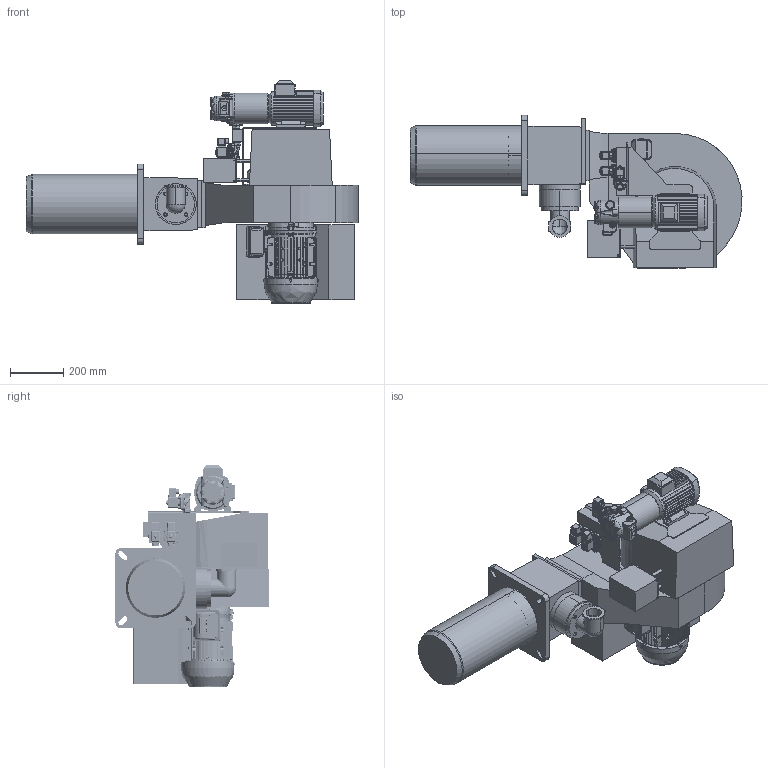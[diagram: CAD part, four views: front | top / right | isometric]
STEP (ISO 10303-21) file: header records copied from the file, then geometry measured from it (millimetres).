
FILE_DESCRIPTION (( 'STEP AP203' ), '1' );
FILE_NAME ('MDB-99-01-01.STEP', '2026-09-21T04:37:08', ( '' ), ( '' ), 'SwSTEP 2.0', 'SolidWorks 2020', '' );
FILE_SCHEMA (( 'CONFIG_CONTROL_DESIGN' ));
Length unit declared in the file: millimetre
Products named in the file (1): MDB-99-01-01
Bounding box: 1242.53 x 573 x 833 mm (x, y, z)
Volume: 121155427.6 mm3; surface area: 4235048.3 mm2
Topology: 65 solids, 85 shells, 6763 faces, 17040 edges, 10647 vertices
Faces by surface type: plane 3281, cylinder 1575, bspline 1039, cone 782, torus 60, sphere 26
Entity records: 255289 total; most frequent: CARTESIAN_POINT 104390, ORIENTED_EDGE 33714, DIRECTION 27624, EDGE_CURVE 16857, VERTEX_POINT 10647, AXIS2_PLACEMENT_3D 9531, LINE 8562, VECTOR 8562
